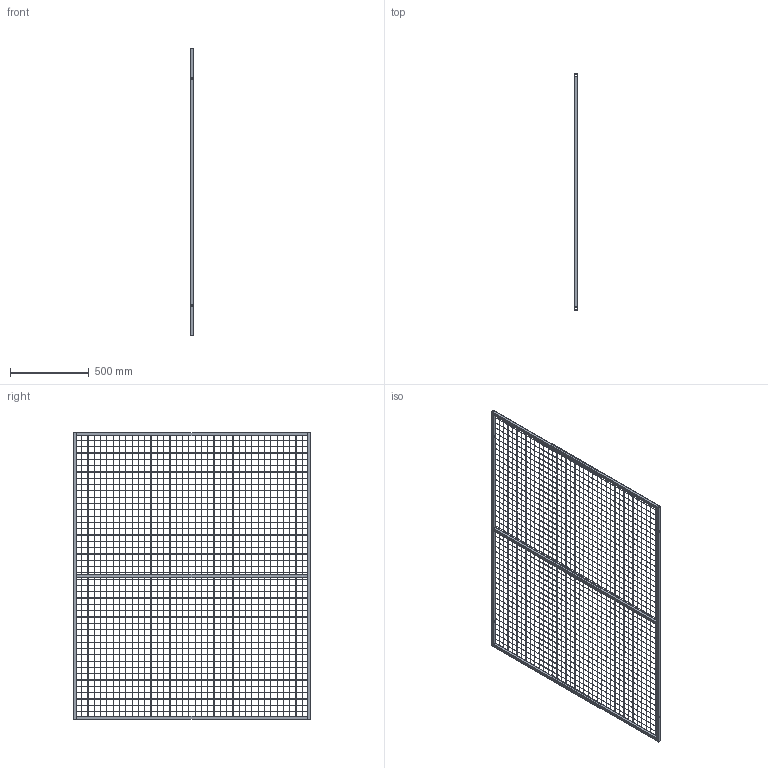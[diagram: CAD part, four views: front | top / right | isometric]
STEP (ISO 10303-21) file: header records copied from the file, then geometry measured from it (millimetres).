
FILE_DESCRIPTION (( 'STEP AP203' ), '1' );
FILE_NAME ('1500.STEP', '2023-03-14T03:02:45', ( '504148165@qq.com' ), ( '' ), 'SwSTEP 2.0', 'SolidWorks 2021', '' );
FILE_SCHEMA (( 'CONFIG_CONTROL_DESIGN' ));
Length unit declared in the file: millimetre
Products named in the file (4): 1500; 1500厙え; 1820
Assembly tree (6 placements, depth 2):
  1500
    1820  x2
    1500  x3
    1500厙え
Bounding box: 21 x 1500 x 1820 mm (x, y, z)
Volume: 1283543.4 mm3; surface area: 1675406 mm2
Topology: 85 solids, 85 shells, 546 faces, 1128 edges, 752 vertices
Faces by surface type: plane 530, cylinder 16
Entity records: 13388 total; most frequent: CARTESIAN_POINT 2237, DIRECTION 2082, ORIENTED_EDGE 2064, EDGE_CURVE 1032, VECTOR 1016, LINE 1016, VERTEX_POINT 688, AXIS2_PLACEMENT_3D 533
